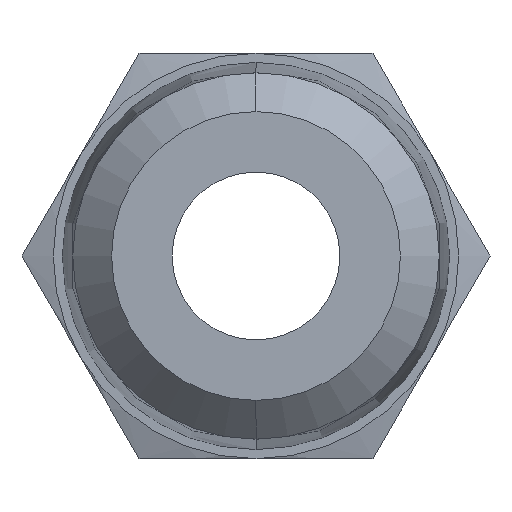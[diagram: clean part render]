
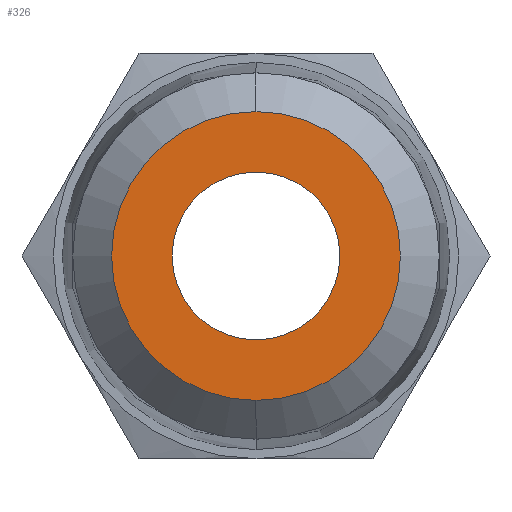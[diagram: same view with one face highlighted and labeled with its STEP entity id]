
A CAD part, left-side view. The second image highlights one B-rep face of the part: STEP entity #326.
In plain terms, the highlighted planar face has unit normal (-1, 0, 0).
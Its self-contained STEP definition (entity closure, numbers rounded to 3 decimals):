
#129 = VERTEX_POINT ( 'NONE', #641 ) ;
#146 = EDGE_CURVE ( 'NONE', #129, #147, #521, .T. ) ;
#147 = VERTEX_POINT ( 'NONE', #516 ) ;
#254 = EDGE_CURVE ( 'NONE', #255, #256, #899, .T. ) ;
#255 = VERTEX_POINT ( 'NONE', #895 ) ;
#256 = VERTEX_POINT ( 'NONE', #894 ) ;
#326 = ADVANCED_FACE ( 'NONE', ( #1003, #998 ), #997, .T. ) ;
#327 = EDGE_LOOP ( 'NONE', ( #328, #330 ) ) ;
#328 = ORIENTED_EDGE ( 'NONE', *, *, #329, .T. ) ;
#329 = EDGE_CURVE ( 'NONE', #147, #129, #991, .T. ) ;
#330 = ORIENTED_EDGE ( 'NONE', *, *, #146, .T. ) ;
#331 = EDGE_LOOP ( 'NONE', ( #332, #333 ) ) ;
#332 = ORIENTED_EDGE ( 'NONE', *, *, #254, .F. ) ;
#333 = ORIENTED_EDGE ( 'NONE', *, *, #504, .F. ) ;
#504 = EDGE_CURVE ( 'NONE', #256, #255, #1144, .T. ) ;
#516 = CARTESIAN_POINT ( 'NONE',  ( -10., 0., -3.959 ) ) ;
#517 = DIRECTION ( 'NONE',  ( 0., 0., 1. ) ) ;
#518 = DIRECTION ( 'NONE',  ( -1., 0., 0. ) ) ;
#519 = CARTESIAN_POINT ( 'NONE',  ( -10., 0., 0. ) ) ;
#520 = AXIS2_PLACEMENT_3D ( 'NONE', #519, #518, #517 ) ;
#521 = CIRCLE ( 'NONE', #520, 3.959 ) ;
#641 = CARTESIAN_POINT ( 'NONE',  ( -10., 0., 3.959 ) ) ;
#821 = CARTESIAN_POINT ( 'NONE',  ( -10., 0., 0. ) ) ;
#894 = CARTESIAN_POINT ( 'NONE',  ( -10., 0., 2.3 ) ) ;
#895 = CARTESIAN_POINT ( 'NONE',  ( -10., 0., -2.3 ) ) ;
#896 = DIRECTION ( 'NONE',  ( 0., 0., 1. ) ) ;
#897 = DIRECTION ( 'NONE',  ( -1., 0., 0. ) ) ;
#898 = AXIS2_PLACEMENT_3D ( 'NONE', #821, #897, #896 ) ;
#899 = CIRCLE ( 'NONE', #898, 2.3 ) ;
#991 = CIRCLE ( 'NONE', #1087, 3.959 ) ;
#992 = DIRECTION ( 'NONE',  ( 0., 0., 1. ) ) ;
#993 = DIRECTION ( 'NONE',  ( -1., 0., 0. ) ) ;
#994 = AXIS2_PLACEMENT_3D ( 'NONE', #996, #993, #992 ) ;
#995 = CARTESIAN_POINT ( 'NONE',  ( -10., 0., 0. ) ) ;
#996 = CARTESIAN_POINT ( 'NONE',  ( -10., 0., 0. ) ) ;
#997 = PLANE ( 'NONE',  #994 ) ;
#998 = FACE_BOUND ( 'NONE', #331, .T. ) ;
#1003 = FACE_OUTER_BOUND ( 'NONE', #327, .T. ) ;
#1085 = DIRECTION ( 'NONE',  ( 0., 0., 1. ) ) ;
#1086 = DIRECTION ( 'NONE',  ( -1., 0., 0. ) ) ;
#1087 = AXIS2_PLACEMENT_3D ( 'NONE', #995, #1086, #1085 ) ;
#1140 = DIRECTION ( 'NONE',  ( 0., 0., 1. ) ) ;
#1141 = DIRECTION ( 'NONE',  ( -1., 0., 0. ) ) ;
#1142 = CARTESIAN_POINT ( 'NONE',  ( -10., 0., 0. ) ) ;
#1143 = AXIS2_PLACEMENT_3D ( 'NONE', #1142, #1141, #1140 ) ;
#1144 = CIRCLE ( 'NONE', #1143, 2.3 ) ;
